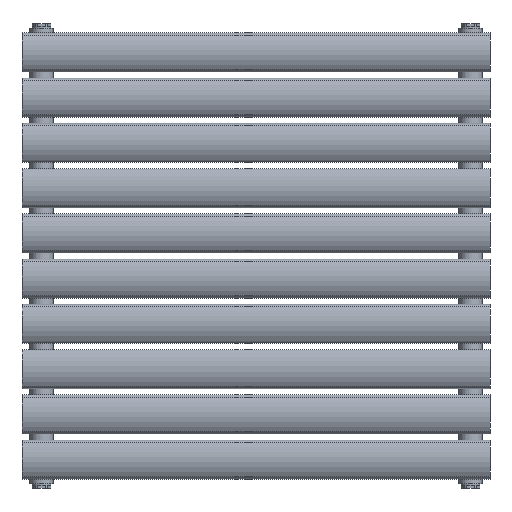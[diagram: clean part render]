
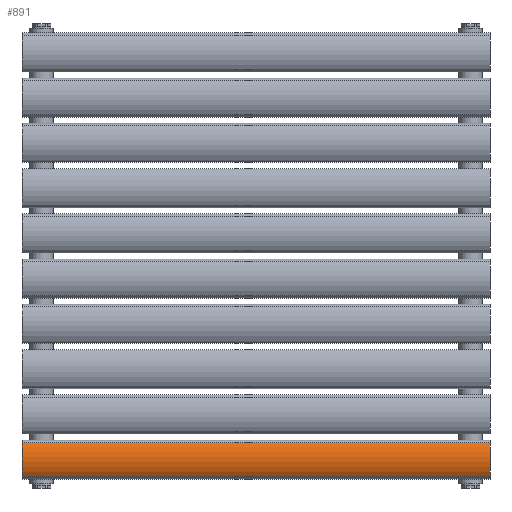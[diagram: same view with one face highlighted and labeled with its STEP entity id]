
A CAD part, top view. The second image highlights one B-rep face of the part: STEP entity #891.
In plain terms, the highlighted cylindrical face has radius 39.5 mm (diameter 79 mm), a partial arc.
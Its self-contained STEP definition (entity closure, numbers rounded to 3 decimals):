
#91=LINE('',#2240,#123);
#92=LINE('',#2244,#124);
#123=VECTOR('',#1120,10.);
#124=VECTOR('',#1123,10.);
#197=CIRCLE('',#987,39.5);
#198=CIRCLE('',#988,39.5);
#291=FACE_OUTER_BOUND('',#374,.T.);
#374=EDGE_LOOP('',(#714,#715,#716,#717));
#490=VERTEX_POINT('',#2238);
#491=VERTEX_POINT('',#2239);
#492=VERTEX_POINT('',#2241);
#493=VERTEX_POINT('',#2243);
#575=EDGE_CURVE('',#490,#491,#91,.T.);
#576=EDGE_CURVE('',#492,#490,#197,.T.);
#577=EDGE_CURVE('',#493,#492,#92,.T.);
#578=EDGE_CURVE('',#491,#493,#198,.T.);
#714=ORIENTED_EDGE('',*,*,#575,.F.);
#715=ORIENTED_EDGE('',*,*,#576,.F.);
#716=ORIENTED_EDGE('',*,*,#577,.F.);
#717=ORIENTED_EDGE('',*,*,#578,.F.);
#864=CYLINDRICAL_SURFACE('',#986,39.5);
#891=ADVANCED_FACE('',(#291),#864,.T.);
#986=AXIS2_PLACEMENT_3D('',#2237,#1118,#1119);
#987=AXIS2_PLACEMENT_3D('',#2242,#1121,#1122);
#988=AXIS2_PLACEMENT_3D('',#2245,#1124,#1125);
#1118=DIRECTION('center_axis',(0.,0.,1.));
#1119=DIRECTION('ref_axis',(-0.552,-0.834,0.));
#1120=DIRECTION('',(0.,0.,-1.));
#1121=DIRECTION('center_axis',(0.,0.,1.));
#1122=DIRECTION('ref_axis',(-0.552,-0.834,0.));
#1123=DIRECTION('',(0.,0.,1.));
#1124=DIRECTION('center_axis',(0.,0.,-1.));
#1125=DIRECTION('ref_axis',(-0.552,-0.834,0.));
#2237=CARTESIAN_POINT('Origin',(0.,14.5,0.));
#2238=CARTESIAN_POINT('',(21.816,-18.429,300.));
#2239=CARTESIAN_POINT('',(21.816,-18.429,-300.));
#2240=CARTESIAN_POINT('',(21.816,-18.429,0.));
#2241=CARTESIAN_POINT('',(-21.816,-18.429,300.));
#2242=CARTESIAN_POINT('Origin',(0.,14.5,300.));
#2243=CARTESIAN_POINT('',(-21.816,-18.429,-300.));
#2244=CARTESIAN_POINT('',(-21.816,-18.429,0.));
#2245=CARTESIAN_POINT('Origin',(0.,14.5,-300.));
